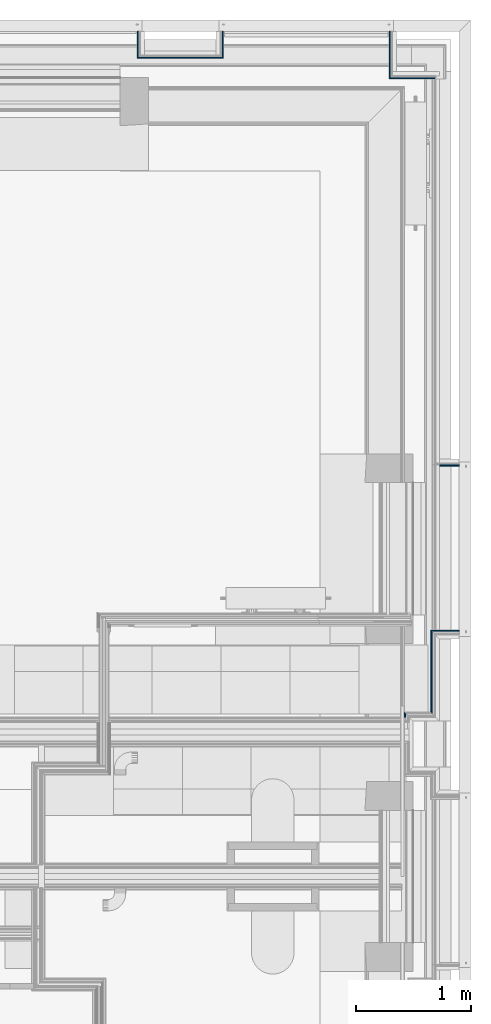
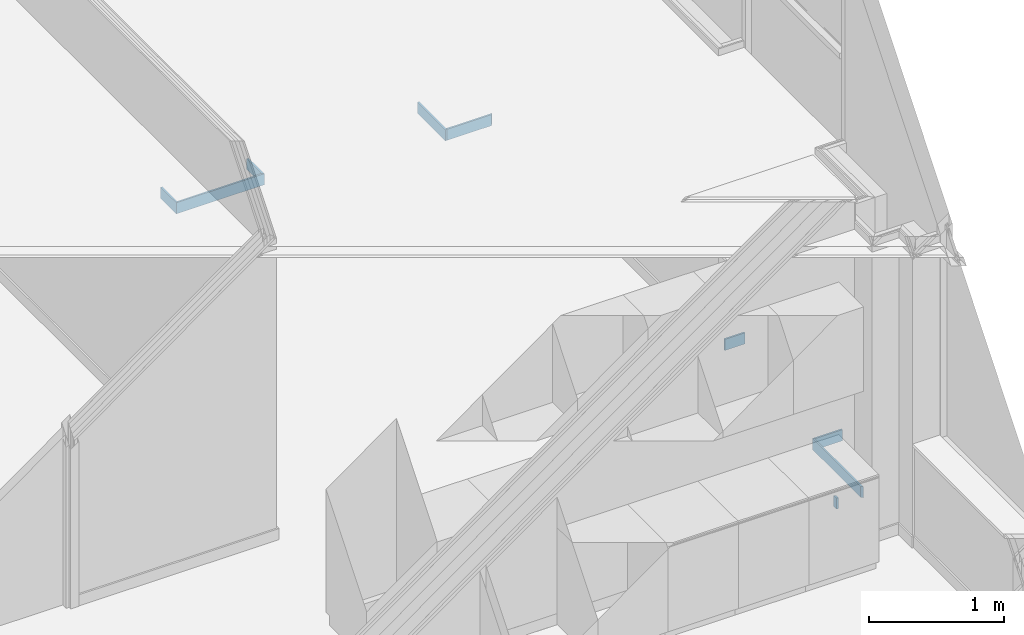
# One storey, part 67 of 169: 9 building element parts, 9 elements without a shape of their own.
"""IFC2X3 building model written with IfcOpenShell, lengths in metres."""

from ifc_helpers import new_model, entity, si_unit, converted_unit, derived_unit, money_unit, direction, frame, frame_2d, origin_with_axes, place, context, subcontext, project, spatial, polyline, rectangle, outline, extrude, material, type_object, element, aggregate, save


model = new_model("IFC2X3")

# Units and contexts
model_context = context("Model", 3, precision=1e-05, world=origin_with_axes(), true_north=direction((0.0, 1.0)))
body_context = subcontext(model_context, "Body", "Model", "MODEL_VIEW", scale=1.0)
ifc_project = project(units=[si_unit("LENGTHUNIT", "METRE"), si_unit("AREAUNIT", "SQUARE_METRE"), si_unit("VOLUMEUNIT", "CUBIC_METRE"), si_unit("ABSORBEDDOSEUNIT", "GRAY"), si_unit("AMOUNTOFSUBSTANCEUNIT", "MOLE"), si_unit("DOSEEQUIVALENTUNIT", "SIEVERT"), si_unit("ELECTRICCAPACITANCEUNIT", "FARAD"), si_unit("ELECTRICCHARGEUNIT", "COULOMB"), si_unit("ELECTRICCONDUCTANCEUNIT", "SIEMENS"), si_unit("ELECTRICCURRENTUNIT", "AMPERE"), si_unit("ELECTRICRESISTANCEUNIT", "OHM"), si_unit("ELECTRICVOLTAGEUNIT", "VOLT"), si_unit("ENERGYUNIT", "JOULE"), si_unit("FORCEUNIT", "NEWTON"), si_unit("FREQUENCYUNIT", "HERTZ"), si_unit("ILLUMINANCEUNIT", "LUX"), si_unit("INDUCTANCEUNIT", "HENRY"), si_unit("LUMINOUSFLUXUNIT", "LUMEN"), si_unit("LUMINOUSINTENSITYUNIT", "CANDELA"), si_unit("MAGNETICFLUXDENSITYUNIT", "TESLA"), si_unit("MAGNETICFLUXUNIT", "WEBER"), si_unit("MASSUNIT", "GRAM"), converted_unit("PLANEANGLEUNIT", "degree", entity("IfcReal", 0.0174532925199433), si_unit("PLANEANGLEUNIT", "RADIAN"), dimensions=[0, 0, 0, 0, 0, 0, 0]), si_unit("POWERUNIT", "WATT"), si_unit("PRESSUREUNIT", "PASCAL"), si_unit("RADIOACTIVITYUNIT", "BECQUEREL"), si_unit("SOLIDANGLEUNIT", "STERADIAN"), si_unit("THERMODYNAMICTEMPERATUREUNIT", "KELVIN"), si_unit("TIMEUNIT", "SECOND"), derived_unit("ACCELERATIONUNIT", [(si_unit("LENGTHUNIT", "METRE"), 1), (si_unit("TIMEUNIT", "SECOND"), -2)]), derived_unit("ANGULARVELOCITYUNIT", [(converted_unit("PLANEANGLEUNIT", "degree", entity("IfcReal", 0.0174532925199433), si_unit("PLANEANGLEUNIT", "RADIAN"), dimensions=[0, 0, 0, 0, 0, 0, 0]), 1), (si_unit("TIMEUNIT", "SECOND"), -1)]), derived_unit("CURVATUREUNIT", [(converted_unit("PLANEANGLEUNIT", "degree", entity("IfcReal", 0.0174532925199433), si_unit("PLANEANGLEUNIT", "RADIAN"), dimensions=[0, 0, 0, 0, 0, 0, 0]), 1), (si_unit("LENGTHUNIT", "METRE"), -1)]), derived_unit("DYNAMICVISCOSITYUNIT", [(si_unit("PRESSUREUNIT", "PASCAL"), 1), (si_unit("TIMEUNIT", "SECOND"), 1)]), derived_unit("HEATFLUXDENSITYUNIT", [(si_unit("POWERUNIT", "WATT"), 1), (si_unit("LENGTHUNIT", "METRE"), -2)]), derived_unit("HEATINGVALUEUNIT", [(si_unit("ENERGYUNIT", "JOULE"), 1), (si_unit("MASSUNIT", "GRAM"), -1)]), derived_unit("INTEGERCOUNTRATEUNIT", [(si_unit("TIMEUNIT", "SECOND"), -1)]), derived_unit("IONCONCENTRATIONUNIT", [(si_unit("MASSUNIT", "GRAM"), 1), (si_unit("VOLUMEUNIT", "CUBIC_METRE"), -1)]), derived_unit("ISOTHERMALMOISTURECAPACITYUNIT", [(si_unit("VOLUMEUNIT", "CUBIC_METRE"), 1), (si_unit("MASSUNIT", "GRAM"), -1)]), derived_unit("KINEMATICVISCOSITYUNIT", [(si_unit("AREAUNIT", "SQUARE_METRE"), 1), (si_unit("TIMEUNIT", "SECOND"), -1)]), derived_unit("LINEARFORCEUNIT", [(si_unit("FORCEUNIT", "NEWTON"), 1), (si_unit("LENGTHUNIT", "METRE"), -1)]), derived_unit("LINEARMOMENTUNIT", [(si_unit("FORCEUNIT", "NEWTON"), 1), (si_unit("LENGTHUNIT", "METRE"), -1)]), derived_unit("LINEARSTIFFNESSUNIT", [(si_unit("FORCEUNIT", "NEWTON"), 1), (si_unit("LENGTHUNIT", "METRE"), -1)]), derived_unit("LINEARVELOCITYUNIT", [(si_unit("LENGTHUNIT", "METRE"), 1), (si_unit("TIMEUNIT", "SECOND"), -1)]), derived_unit("LUMINOUSINTENSITYDISTRIBUTIONUNIT", [(si_unit("LUMINOUSINTENSITYUNIT", "CANDELA"), 1), (si_unit("LUMINOUSFLUXUNIT", "LUMEN"), -1)]), derived_unit("MASSDENSITYUNIT", [(si_unit("MASSUNIT", "GRAM"), 1), (si_unit("VOLUMEUNIT", "CUBIC_METRE"), -1)]), derived_unit("MASSFLOWRATEUNIT", [(si_unit("MASSUNIT", "GRAM"), 1), (si_unit("TIMEUNIT", "SECOND"), -1)]), derived_unit("MASSPERLENGTHUNIT", [(si_unit("MASSUNIT", "GRAM"), 1), (si_unit("LENGTHUNIT", "METRE"), -1)]), derived_unit("MODULUSOFELASTICITYUNIT", [(si_unit("FORCEUNIT", "NEWTON"), 1), (si_unit("AREAUNIT", "SQUARE_METRE"), -1)]), derived_unit("MODULUSOFLINEARSUBGRADEREACTIONUNIT", [(si_unit("FORCEUNIT", "NEWTON"), 1), (si_unit("LENGTHUNIT", "METRE"), -2)]), derived_unit("MODULUSOFROTATIONALSUBGRADEREACTIONUNIT", [(si_unit("FORCEUNIT", "NEWTON"), 1), (si_unit("LENGTHUNIT", "METRE"), 1)]), derived_unit("MODULUSOFSUBGRADEREACTIONUNIT", [(si_unit("FORCEUNIT", "NEWTON"), 1), (si_unit("VOLUMEUNIT", "CUBIC_METRE"), -1)]), derived_unit("MOISTUREDIFFUSIVITYUNIT", [(si_unit("VOLUMEUNIT", "CUBIC_METRE"), 1), (si_unit("TIMEUNIT", "SECOND"), -1)]), derived_unit("MOLECULARWEIGHTUNIT", [(si_unit("MASSUNIT", "GRAM"), 1), (si_unit("AMOUNTOFSUBSTANCEUNIT", "MOLE"), -1)]), derived_unit("PLANARFORCEUNIT", [(si_unit("FORCEUNIT", "NEWTON"), 1), (si_unit("LENGTHUNIT", "METRE"), -2)]), derived_unit("ROTATIONALFREQUENCYUNIT", [(si_unit("TIMEUNIT", "SECOND"), -1)]), derived_unit("ROTATIONALMASSUNIT", [(si_unit("MASSUNIT", "GRAM"), 1), (si_unit("LENGTHUNIT", "METRE"), 2)]), derived_unit("ROTATIONALSTIFFNESSUNIT", [(si_unit("FORCEUNIT", "NEWTON"), 1), (si_unit("LENGTHUNIT", "METRE"), 1), (converted_unit("PLANEANGLEUNIT", "degree", entity("IfcReal", 0.0174532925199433), si_unit("PLANEANGLEUNIT", "RADIAN"), dimensions=[0, 0, 0, 0, 0, 0, 0]), -1)]), derived_unit("SECTIONAREAINTEGRALUNIT", [(si_unit("LENGTHUNIT", "METRE"), 5)]), derived_unit("SECTIONMODULUSUNIT", [(si_unit("LENGTHUNIT", "METRE"), 3)]), derived_unit("SHEARMODULUSUNIT", [(si_unit("FORCEUNIT", "NEWTON"), 1), (si_unit("AREAUNIT", "SQUARE_METRE"), -1)]), derived_unit("SOUNDPOWERUNIT", [(si_unit("ENERGYUNIT", "JOULE"), 1), (si_unit("TIMEUNIT", "SECOND"), -1)]), derived_unit("SPECIFICHEATCAPACITYUNIT", [(si_unit("FORCEUNIT", "NEWTON"), 1), (si_unit("MASSUNIT", "GRAM"), -1), (si_unit("THERMODYNAMICTEMPERATUREUNIT", "KELVIN"), -1)]), derived_unit("TEMPERATUREGRADIENTUNIT", [(si_unit("THERMODYNAMICTEMPERATUREUNIT", "KELVIN"), 1), (si_unit("LENGTHUNIT", "METRE"), -1)]), derived_unit("THERMALADMITTANCEUNIT", [(si_unit("POWERUNIT", "WATT"), 1), (si_unit("AREAUNIT", "SQUARE_METRE"), -1), (si_unit("THERMODYNAMICTEMPERATUREUNIT", "KELVIN"), -1)]), derived_unit("THERMALCONDUCTANCEUNIT", [(si_unit("POWERUNIT", "WATT"), 1), (si_unit("LENGTHUNIT", "METRE"), -1), (si_unit("THERMODYNAMICTEMPERATUREUNIT", "KELVIN"), -1)]), derived_unit("THERMALEXPANSIONCOEFFICIENTUNIT", [(si_unit("THERMODYNAMICTEMPERATUREUNIT", "KELVIN"), -1)]), derived_unit("THERMALRESISTANCEUNIT", [(si_unit("AREAUNIT", "SQUARE_METRE"), 1), (si_unit("POWERUNIT", "WATT"), -1)]), derived_unit("THERMALTRANSMITTANCEUNIT", [(si_unit("POWERUNIT", "WATT"), 1), (si_unit("AREAUNIT", "SQUARE_METRE"), -1), (si_unit("THERMODYNAMICTEMPERATUREUNIT", "KELVIN"), -1)]), derived_unit("TORQUEUNIT", [(si_unit("FORCEUNIT", "NEWTON"), 1), (si_unit("LENGTHUNIT", "METRE"), 1)]), derived_unit("VAPORPERMEABILITYUNIT", [(si_unit("MASSUNIT", "GRAM"), 1), (si_unit("TIMEUNIT", "SECOND"), -1)]), derived_unit("VOLUMETRICFLOWRATEUNIT", [(si_unit("VOLUMEUNIT", "CUBIC_METRE"), 1), (si_unit("TIMEUNIT", "SECOND"), -1)]), derived_unit("WARPINGCONSTANTUNIT", [(si_unit("LENGTHUNIT", "METRE"), 6)]), derived_unit("WARPINGMOMENTUNIT", [(si_unit("FORCEUNIT", "NEWTON"), 1), (si_unit("LENGTHUNIT", "METRE"), 2)]), money_unit("GBP")], contexts=[model_context])

# Site, building, storey
site_placement = place(None, origin_with_axes())
site = spatial("IfcSite", under=ifc_project, at=site_placement, Name="Site", CompositionType="ELEMENT")
building_placement = place(site_placement, origin_with_axes())
building = spatial("IfcBuilding", under=site, at=building_placement, Name="Building01", CompositionType="ELEMENT")
storey_placement = place(building_placement, frame((0.0, 0.0, 5.15), z_axis=(0.0, 0.0, 1.0), x_axis=(1.0, 0.0, 0.0)))
storey = spatial("IfcBuildingStorey", under=building, at=storey_placement, Name="1F", CompositionType="ELEMENT", Elevation=5.15)

# Wall, building element part
wall_type_1 = type_object("IfcWallType", Name="SHE_A-Walls_Type06f_ExternalWallInsulation_48+15mm", PredefinedType="NOTDEFINED")
wall_1_placement = place(storey_placement, frame((26.692, 8.818, 0.0), z_axis=(0.0, 0.0, 1.0), x_axis=(0.0, 1.0, 0.0)))
wall_1 = element("IfcWall", 1, at=wall_1_placement, inside=storey, type_object=wall_type_1, Name="6F", ObjectType="SHE_A-Walls_Type06f_ExternalWallInsulation_48+15mm")
ifc_material = material(Name="A_BSUK_Walls_Timber")
building_element_part_1_placement = place(wall_1_placement, origin_with_axes())
building_element_part_1 = element("IfcBuildingElementPart", 2, at=building_element_part_1_placement, material=ifc_material, Name="4", context=body_context, shape_type="SweptSolid", body=[
    extrude(outline(polyline([(0.77418, 0.06), (0.06, 0.06), (0.045, 0.045), (0.75918, 0.045), (0.77418, 0.06)])), frame((0.0, 0.0, 0.015), z_axis=(0.0, 0.0, 1.0), x_axis=(1.0, 0.0, 0.0)), (0.0, 0.0, 1.0), 0.1),
])
aggregate(wall_1, [building_element_part_1])

wall_2_placement = place(storey_placement, frame((26.692, 9.53218, 0.0), z_axis=(0.0, 0.0, 1.0), x_axis=(1.0, 0.0, 0.0)))
wall_2 = element("IfcWall", 3, at=wall_2_placement, inside=storey, type_object=wall_type_1, Name="6F", ObjectType="SHE_A-Walls_Type06f_ExternalWallInsulation_48+15mm")
building_element_part_2_placement = place(wall_2_placement, origin_with_axes())
building_element_part_2 = element("IfcBuildingElementPart", 4, at=building_element_part_2_placement, material=ifc_material, Name="4", context=body_context, shape_type="SweptSolid", body=[
    extrude(outline(polyline([(-0.06, 0.06), (-0.045, 0.045), (0.188, 0.045), (0.188, 0.06), (-0.06, 0.06)])), frame((0.0, 0.0, 0.015), z_axis=(0.0, 0.0, 1.0), x_axis=(1.0, 0.0, 0.0)), (0.0, 0.0, 1.0), 0.1),
])
aggregate(wall_2, [building_element_part_2])

wall_3_placement = place(storey_placement, frame((26.462, 8.382, 0.0), z_axis=(0.0, 0.0, 1.0), x_axis=(0.0, 1.0, 0.0)))
wall_3 = element("IfcWall", 5, at=wall_3_placement, inside=storey, type_object=wall_type_1, Name="6F", ObjectType="SHE_A-Walls_Type06f_ExternalWallInsulation_48+15mm")
building_element_part_3_placement = place(wall_3_placement, origin_with_axes())
building_element_part_3 = element("IfcBuildingElementPart", 6, at=building_element_part_3_placement, material=ifc_material, Name="7", context=body_context, shape_type="SweptSolid", body=[
    extrude(outline(polyline([(0.496, 0.06), (0.453, 0.06), (0.453, 0.045), (0.481, 0.045), (0.496, 0.06)])), frame((0.0, 0.0, 0.015), z_axis=(0.0, 0.0, 1.0), x_axis=(1.0, 0.0, 0.0)), (0.0, 0.0, 1.0), 0.1),
])
aggregate(wall_3, [building_element_part_3])

wall_type_2 = type_object("IfcWallType", Name="SHE_A-Walls_Type06d_ExternalWallInsulation_48mm", PredefinedType="NOTDEFINED")
wall_4_placement = place(storey_placement, frame((26.71, 11.08018, 0.0), z_axis=(0.0, 0.0, 1.0), x_axis=(1.0, 0.0, 0.0)))
wall_4 = element("IfcWall", 7, at=wall_4_placement, inside=storey, type_object=wall_type_2, Name="6D", ObjectType="SHE_A-Walls_Type06d_ExternalWallInsulation_48mm")
building_element_part_4_placement = place(wall_4_placement, origin_with_axes())
building_element_part_4 = element("IfcBuildingElementPart", 8, at=building_element_part_4_placement, material=ifc_material, Name="1", context=body_context, shape_type="SweptSolid", body=[
    extrude(rectangle(XDim=0.17, YDim=0.015, at=frame_2d((0.085, -0.0555), x_axis=(1.0, 0.0))), frame((0.0, 0.0, 0.015), z_axis=(0.0, 0.0, 1.0), x_axis=(1.0, 0.0, 0.0)), (0.0, 0.0, 1.0), 0.1),
])
aggregate(wall_4, [building_element_part_4])

wall_5_placement = place(storey_placement, frame((26.71, 14.45, 0.0), z_axis=(0.0, 0.0, 1.0), x_axis=(-1.0, 0.0, 0.0)))
wall_5 = element("IfcWall", 9, at=wall_5_placement, inside=storey, type_object=wall_type_2, Name="6D", ObjectType="SHE_A-Walls_Type06d_ExternalWallInsulation_48mm")
building_element_part_5_placement = place(wall_5_placement, origin_with_axes())
building_element_part_5 = element("IfcBuildingElementPart", 10, at=building_element_part_5_placement, material=ifc_material, Name="3", context=body_context, shape_type="SweptSolid", body=[
    extrude(outline(polyline([(0.425, 0.063), (0.048, 0.063), (0.033, 0.048), (0.425, 0.048), (0.425, 0.063)])), frame((0.0, 0.0, 0.015), z_axis=(0.0, 0.0, 1.0), x_axis=(1.0, 0.0, 0.0)), (0.0, 0.0, 1.0), 0.1),
])
aggregate(wall_5, [building_element_part_5])

wall_6_placement = place(storey_placement, frame((26.333, 14.45, 0.0), z_axis=(0.0, 0.0, 1.0), x_axis=(0.0, 1.0, 0.0)))
wall_6 = element("IfcWall", 11, at=wall_6_placement, inside=storey, type_object=wall_type_2, Name="6D", ObjectType="SHE_A-Walls_Type06d_ExternalWallInsulation_48mm")
building_element_part_6_placement = place(wall_6_placement, origin_with_axes())
building_element_part_6 = element("IfcBuildingElementPart", 12, at=building_element_part_6_placement, material=ifc_material, Name="3", context=body_context, shape_type="SweptSolid", body=[
    extrude(rectangle(XDim=0.413, YDim=0.015, at=frame_2d((0.1435, 0.0555), x_axis=(-1.0, 0.0))), frame((0.0, 0.0, 0.015), z_axis=(0.0, 0.0, 1.0), x_axis=(1.0, 0.0, 0.0)), (0.0, 0.0, 1.0), 0.1),
])
aggregate(wall_6, [building_element_part_6])

wall_7_placement = place(storey_placement, frame((24.767, 14.8, 0.0), z_axis=(0.0, 0.0, 1.0), x_axis=(0.0, -1.0, 0.0)))
wall_7 = element("IfcWall", 13, at=wall_7_placement, inside=storey, type_object=wall_type_2, Name="6D", ObjectType="SHE_A-Walls_Type06d_ExternalWallInsulation_48mm")
building_element_part_7_placement = place(wall_7_placement, origin_with_axes())
building_element_part_7 = element("IfcBuildingElementPart", 14, at=building_element_part_7_placement, material=ifc_material, Name="3", context=body_context, shape_type="SweptSolid", body=[
    extrude(outline(polyline([(0.233, 0.063), (0.0, 0.063), (0.0, 0.048), (0.218, 0.048), (0.233, 0.063)])), frame((0.0, 0.0, 0.015), z_axis=(0.0, 0.0, 1.0), x_axis=(1.0, 0.0, 0.0)), (0.0, 0.0, 1.0), 0.1),
])
aggregate(wall_7, [building_element_part_7])

wall_8_placement = place(storey_placement, frame((24.767, 14.63, 0.0), z_axis=(0.0, 0.0, 1.0), x_axis=(-1.0, 0.0, 0.0)))
wall_8 = element("IfcWall", 15, at=wall_8_placement, inside=storey, type_object=wall_type_2, Name="6D", ObjectType="SHE_A-Walls_Type06d_ExternalWallInsulation_48mm")
building_element_part_8_placement = place(wall_8_placement, origin_with_axes())
building_element_part_8 = element("IfcBuildingElementPart", 16, at=building_element_part_8_placement, material=ifc_material, Name="3", context=body_context, shape_type="SweptSolid", body=[
    extrude(outline(polyline([(0.687, 0.063), (-0.063, 0.063), (-0.048, 0.048), (0.672, 0.048), (0.687, 0.063)])), frame((0.0, 0.0, 0.015), z_axis=(0.0, 0.0, 1.0), x_axis=(1.0, 0.0, 0.0)), (0.0, 0.0, 1.0), 0.1),
])
aggregate(wall_8, [building_element_part_8])

wall_9_placement = place(storey_placement, frame((24.143, 14.594, 0.0), z_axis=(0.0, 0.0, 1.0), x_axis=(0.0, 1.0, 0.0)))
wall_9 = element("IfcWall", 17, at=wall_9_placement, inside=storey, type_object=wall_type_2, Name="6D", ObjectType="SHE_A-Walls_Type06d_ExternalWallInsulation_48mm")
building_element_part_9_placement = place(wall_9_placement, origin_with_axes())
building_element_part_9 = element("IfcBuildingElementPart", 18, at=building_element_part_9_placement, material=ifc_material, Name="3", context=body_context, shape_type="SweptSolid", body=[
    extrude(outline(polyline([(-0.027, 0.063), (-0.012, 0.048), (0.206, 0.048), (0.206, 0.063), (-0.027, 0.063)])), frame((0.0, 0.0, 0.015), z_axis=(0.0, 0.0, 1.0), x_axis=(1.0, 0.0, 0.0)), (0.0, 0.0, 1.0), 0.1),
])
aggregate(wall_9, [building_element_part_9])

save(model, "model.ifc")
